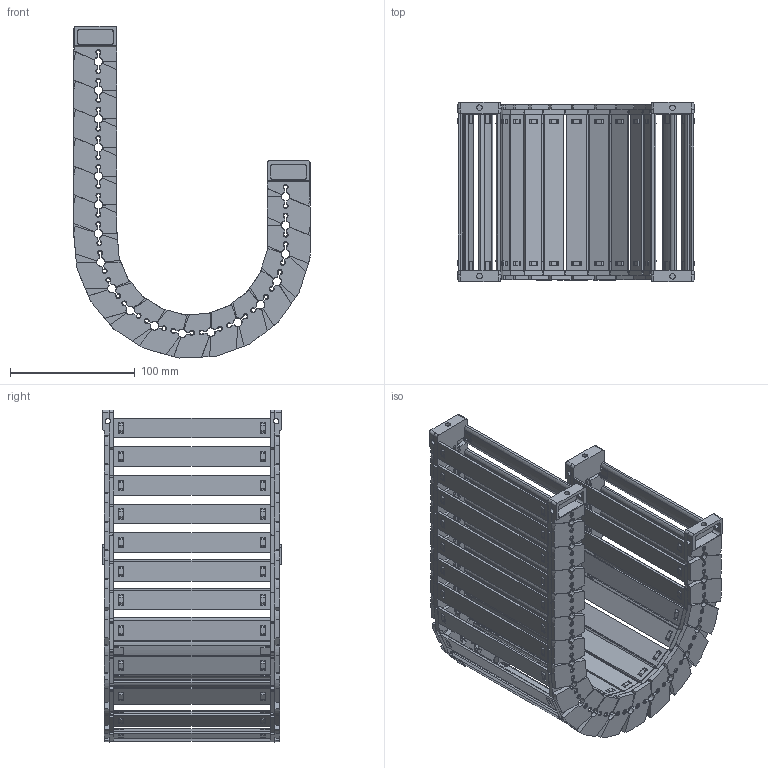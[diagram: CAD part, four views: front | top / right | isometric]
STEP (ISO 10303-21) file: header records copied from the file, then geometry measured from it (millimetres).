
FILE_DESCRIPTION((''),'2;1');
FILE_NAME('JY-28X125-R75_ASM','2026-03-26T08:27:03',('admin'),(''),'CREO PARAMETRIC BY PTC INC, 2021023','CREO PARAMETRIC BY PTC INC, 2021023','');
FILE_SCHEMA(('CONFIG_CONTROL_DESIGN'));
Length unit declared in the file: millimetre
Products named in the file (11): 28XL-L; 25-35XL-YP; 28XL-R; ASM0001_ASM; 28-LTT-A-L; 28-LTT-A-R; 28XL-LTT-A_ASM; 28-LTT-B-L; 28-LTT-B-R; 28XL-LTT-B_ASM; JY-28X125-R75_ASM
Assembly tree (32 placements, depth 3):
  JY-28X125-R75_ASM
    ASM0001_ASM  x18
      28XL-L
      25-35XL-YP
      28XL-R
    28XL-LTT-A_ASM
      28-LTT-A-L
      25-35XL-YP  x2
      28-LTT-A-R
    28XL-LTT-B_ASM
      28-LTT-B-L
      25-35XL-YP  x2
      28-LTT-B-R
Bounding box: 189.55 x 144 x 266.34 mm (x, y, z)
Volume: 460142.8 mm3; surface area: 330587.7 mm2
Topology: 80 solids, 80 shells, 6470 faces, 19228 edges, 12838 vertices
Faces by surface type: plane 4242, cone 1156, cylinder 934, bspline 138
Entity records: 29095 total; most frequent: CARTESIAN_POINT 9490, ORIENTED_EDGE 4352, DIRECTION 3655, EDGE_CURVE 2176, VERTEX_POINT 1454, VECTOR 1365, LINE 1365, AXIS2_PLACEMENT_3D 1145
